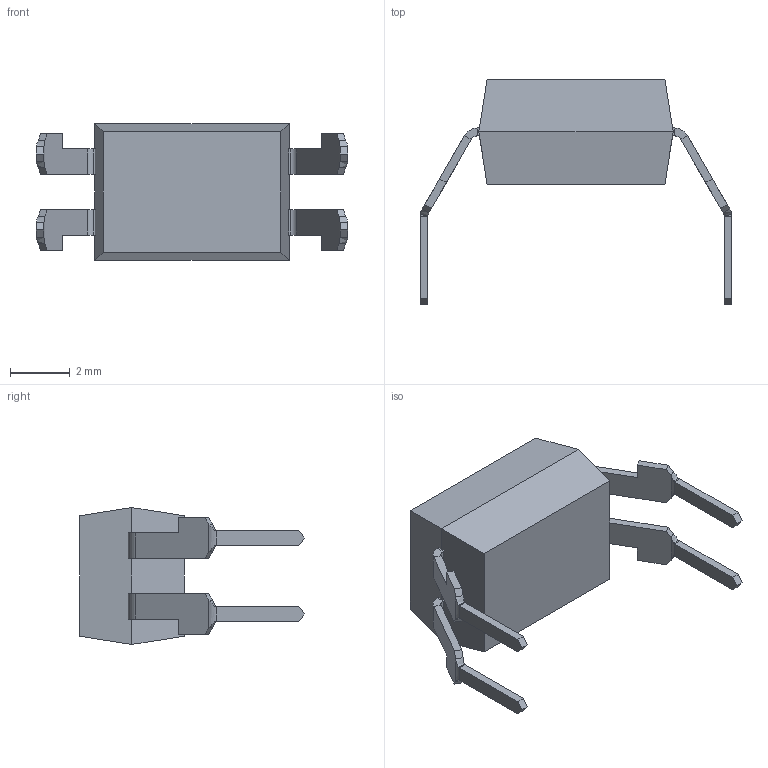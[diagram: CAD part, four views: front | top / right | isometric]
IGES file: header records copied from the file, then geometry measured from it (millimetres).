
Start section: SolidWorks IGES file using analytic representation for surfaces
Global section: file name: C:\Users\David\Dropbox\Jose Espina\Component Packages\DIP4\DIP4-TH6.IGS; native system: SolidWorks 2015; preprocessor: SolidWorks 2015; author: David; date: 151205.143942; units: millimetre
Bounding box: 10.42 x 7.52 x 4.58 mm (x, y, z)
Volume: 111.2 mm3; surface area: 285.7 mm2
Topology: 3 solids, 3 shells, 149 faces, 364 edges, 220 vertices
Faces by surface type: plane 123, revolution 18, bspline 8
